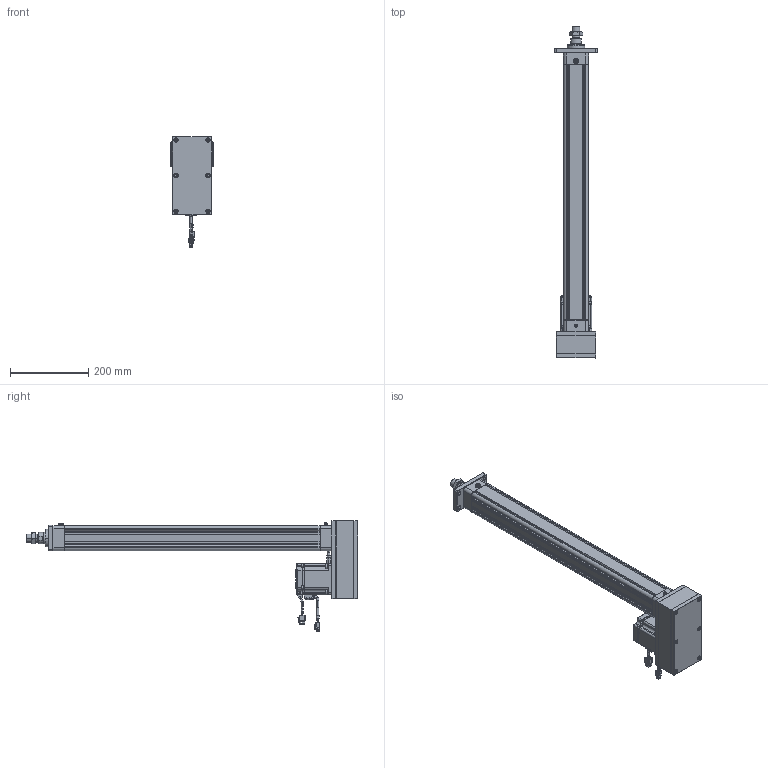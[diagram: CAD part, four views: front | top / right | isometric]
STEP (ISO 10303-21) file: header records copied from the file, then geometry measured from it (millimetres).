
FILE_DESCRIPTION((''),'2;1');
FILE_NAME('ASM0001_ASM','2020-04-16T',('ASUS20200'),(''),'CREO PARAMETRIC BY PTC INC, 2014190','CREO PARAMETRIC BY PTC INC, 2014190','');
FILE_SCHEMA(('CONFIG_CONTROL_DESIGN'));
Length unit declared in the file: millimetre
Products named in the file (31): HE50-D-P-001-X1; HE50-D-P-002-X1; HE50-D-P-003-X1; 6301ZZ; LGLM-M8-22; SLM-01; YZ-M6X1; HE50-P-010-X1-400W; _MHMF082L1A2; _CABLE_MOTOR_BOTTOM_05; _CABLE_MOTOR_TOP_05; _MOTOR_CONNECTOR_2; _CABLE_BRAKE_BOTTOM_05; _CABLE_BRAKE_TOP_05; _MHMF_CONNECTOR_9_PIN_A6; MHMF082L1A2M2_1_ASM; TD-6; M6X25; LM-M6X1; JX6X6X20; M6X25-DS; LM-M6-15; HE50-P-012-X1; HE50-P-013-X1; M6X60; HE50-D-P-005-X1; HE50-D-P-004-X1; HE50-D-P-008-X1; F-SE50FA; M8X16; ASM0001_ASM
Assembly tree (55 placements, depth 3):
  ASM0001_ASM
    HE50-D-P-001-X1
    HE50-D-P-002-X1
    HE50-D-P-003-X1
    6301ZZ
    LGLM-M8-22  x8
    SLM-01
    YZ-M6X1
    HE50-P-010-X1-400W
    MHMF082L1A2M2_1_ASM
      _MHMF082L1A2
      _CABLE_MOTOR_BOTTOM_05
      _CABLE_MOTOR_TOP_05
      _MOTOR_CONNECTOR_2
      _CABLE_BRAKE_BOTTOM_05
      _CABLE_BRAKE_TOP_05
      _MHMF_CONNECTOR_9_PIN_A6
    TD-6  x4
    M6X25  x4
    LM-M6X1  x5
    JX6X6X20
    M6X25-DS
    LM-M6-15
    HE50-P-012-X1
    HE50-P-013-X1
    M6X60  x6
    HE50-D-P-005-X1
    HE50-D-P-004-X1
    HE50-D-P-008-X1
    F-SE50FA
    M8X16  x4
Bounding box: 108 x 848.5 x 283.65 mm (x, y, z)
Volume: 2604452 mm3; surface area: 747723.9 mm2
Topology: 54 solids, 84 shells, 2871 faces, 6873 edges, 4270 vertices
Faces by surface type: plane 1216, cylinder 785, cone 671, torus 154, sphere 42, bspline 3
Entity records: 67975 total; most frequent: CARTESIAN_POINT 12752, DIRECTION 12169, ORIENTED_EDGE 10782, EDGE_CURVE 5441, AXIS2_PLACEMENT_3D 4570, VERTEX_POINT 3411, VECTOR 3029, LINE 3029
